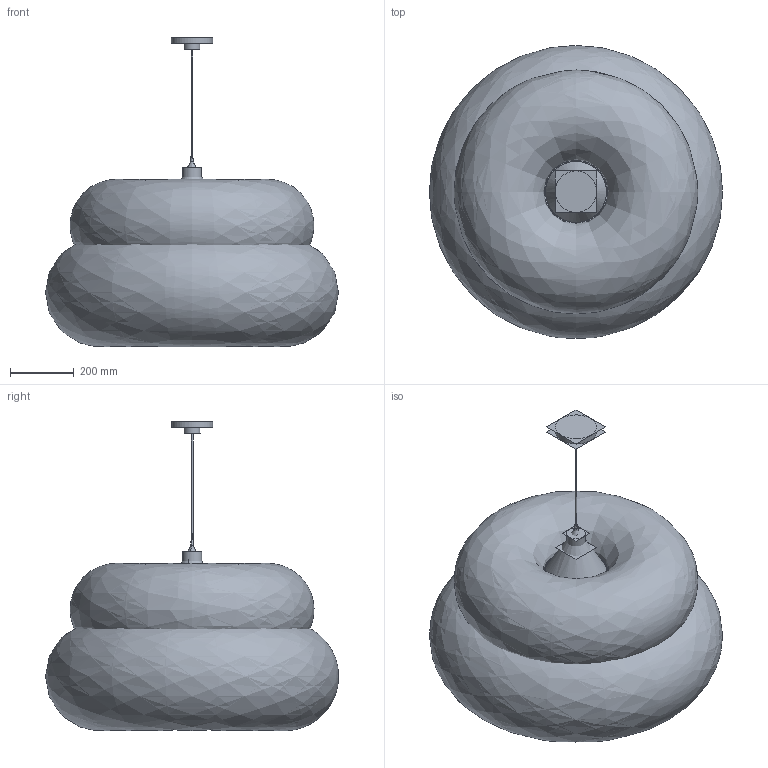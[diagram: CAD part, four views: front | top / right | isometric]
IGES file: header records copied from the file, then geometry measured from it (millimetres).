
Global section: file name: C:\Users\utente\Desktop\DANESE RG\3D Danese\FALKLAND\FALKLAND SOSPENSIONE 53.igs; native system: Rhinoceros ( Mar  9 2011 ); preprocessor: Trout Lake IGES 012 Mar  9 2011; date: 170725.140501; units: millimetre
Bounding box: 921.88 x 921.53 x 973.23 mm (x, y, z)
Surface area: 13638780.9 mm2 (no closed solid volume)
Topology: 0 solids, 0 shells, 42 faces, 123 edges, 88 vertices
Faces by surface type: bspline 42
